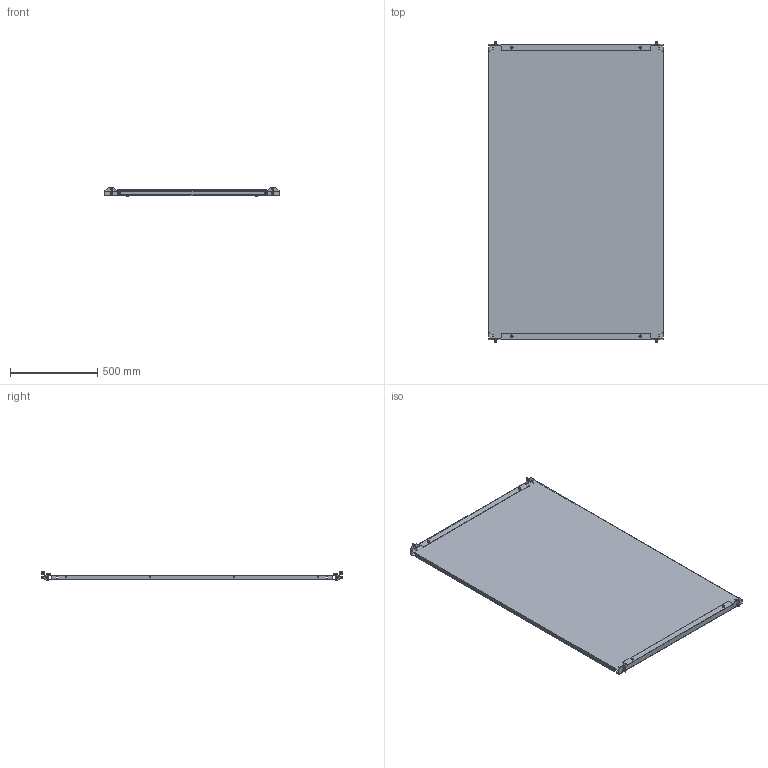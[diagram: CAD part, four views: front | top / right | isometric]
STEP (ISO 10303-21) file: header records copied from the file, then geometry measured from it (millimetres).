
FILE_DESCRIPTION(('Open CASCADE Model'),'2;1');
FILE_NAME('Open CASCADE Shape Model','2025-02-13T16:49:56',('Author'),( 'Open CASCADE'),'Open CASCADE STEP processor 7.8','Open CASCADE 7.8' ,'Unknown');
FILE_SCHEMA(('AUTOMOTIVE_DESIGN { 1 0 10303 214 1 1 1 1 }'));
Length unit declared in the file: millimetre
Products named in the file (11): Compound1; Solid1; Compound2; Solid2; Solid3; Solid4; Solid5; Solid6; Solid7; Solid8; Solid9
Assembly tree (38 placements, depth 3):
  Compound1
    Solid1
    Compound2  x2
      Solid2
      Solid3
    Solid4  x4
    Solid5  x4
    Solid6  x4
    Solid7  x4
    Solid8  x8
    Solid9  x8
Bounding box: 1000 x 1726 x 55.3 mm (x, y, z)
Volume: 5208534 mm3; surface area: 4202546.8 mm2
Topology: 39 solids, 39 shells, 2692 faces, 7206 edges, 4528 vertices
Faces by surface type: plane 1298, cylinder 730, bspline 304, cone 228, torus 128, sphere 4
Full cylindrical faces by diameter (mm): 5 x12, 6 x16, 6.5 x8, 6.8 x32, 8 x4, 8.3 x8, 8.4 x4, 9.5 x8, 10.1 x4, 10.44 x4, 10.5 x4, 11.57 x8, 12 x4, 12.65 x4, 16 x12, 16.55 x4
Entity records: 23066 total; most frequent: CARTESIAN_POINT 6118, ORIENTED_EDGE 3604, DIRECTION 3274, EDGE_CURVE 1802, VERTEX_POINT 1154, LINE 1150, VECTOR 1150, AXIS2_PLACEMENT_3D 1062
